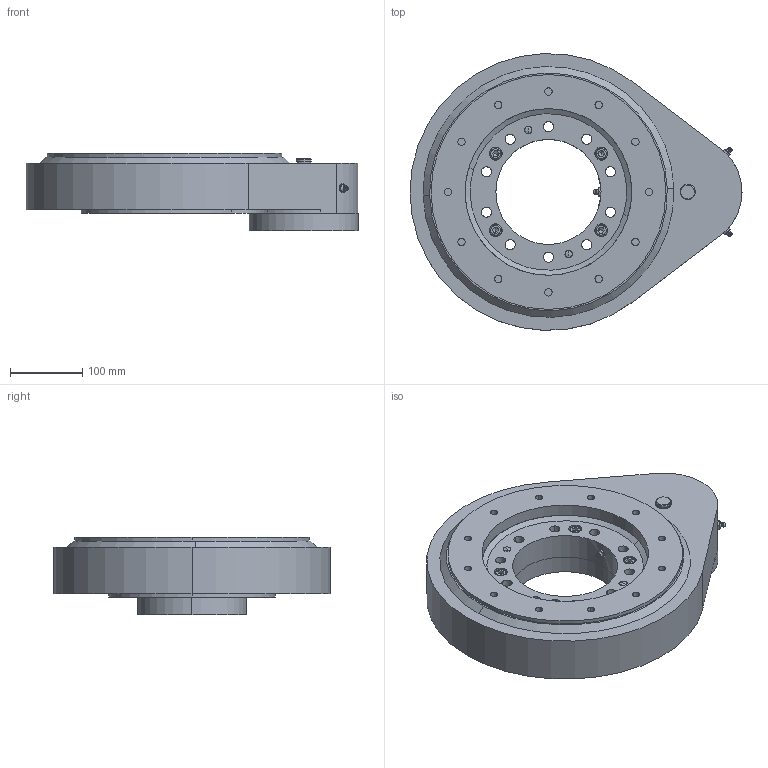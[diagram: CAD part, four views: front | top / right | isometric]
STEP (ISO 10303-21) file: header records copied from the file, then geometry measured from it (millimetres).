
FILE_DESCRIPTION (( 'STEP AP214' ), '1' );
FILE_NAME ('10229（客户）.STEP', '2023-03-16T04:50:28', ( '' ), ( '' ), 'SwSTEP 2.0', 'SolidWorks 2021', '' );
FILE_SCHEMA (( 'AUTOMOTIVE_DESIGN' ));
Length unit declared in the file: millimetre
Products named in the file (1): 10229ㄗ諦誧ㄘ
Bounding box: 458 x 381.78 x 106.5 mm (x, y, z)
Surface area: 528486.3 mm2 (no closed solid volume)
Topology: 0 solids, 39 shells, 385 faces, 1138 edges, 764 vertices
Faces by surface type: cylinder 152, plane 151, torus 40, cone 34, sphere 8
Entity records: 17494 total; most frequent: CARTESIAN_POINT 2488, DIRECTION 2482, ORIENTED_EDGE 1882, EDGE_CURVE 1122, AXIS2_PLACEMENT_3D 980, VERTEX_POINT 764, CIRCLE 594, EDGE_LOOP 531
